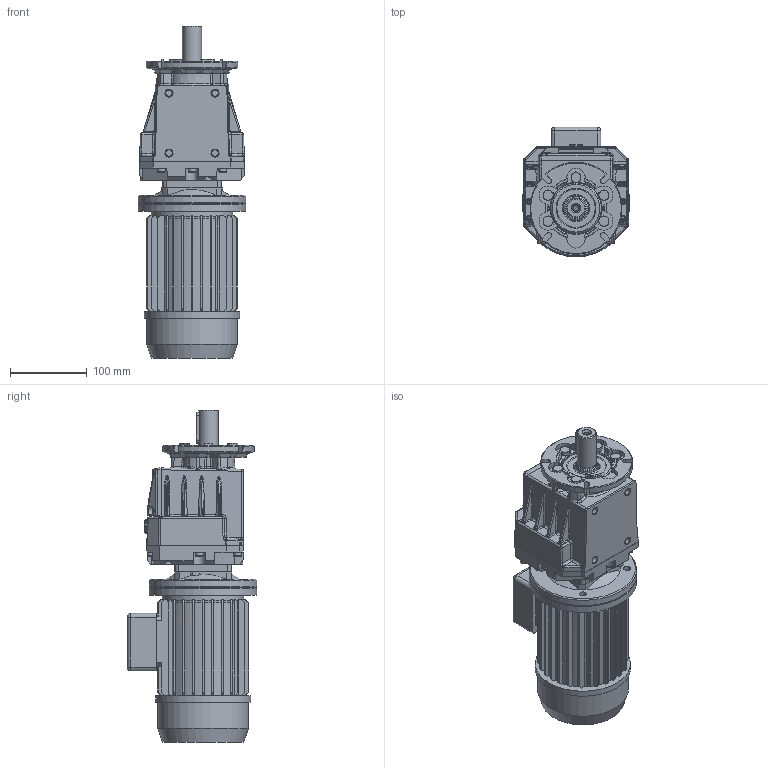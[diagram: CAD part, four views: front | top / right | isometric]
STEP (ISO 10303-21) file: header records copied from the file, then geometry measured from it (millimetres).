
FILE_DESCRIPTION( ( 'Unknown' ), '1' );
FILE_NAME( 'E:/services/configuratordownloads/customers/HYDROMEC/COASSIALI/download/301AC41EC413DED122242F237E3263E2/STEP/301AC41EC413DED122242F237E3263E2.3d.stp', 'Unknown', ( 'Unknown' ), ( 'Unknown' ), 'PSStep 10.1', 'Unknown', ' ' );
FILE_SCHEMA( ( 'AUTOMOTIVE_DESIGN { 1 0 10303 214 1 1 1 1 }' ) );
Length unit declared in the file: millimetre
Products named in the file (1): C418800
Bounding box: 140 x 169 x 432.5 mm (x, y, z)
Volume: 4232655.2 mm3; surface area: 349477.2 mm2
Topology: 1 solids, 20 shells, 1517 faces, 3838 edges, 2413 vertices
Faces by surface type: plane 800, cylinder 290, bspline 196, cone 166, torus 44, sphere 18, extrusion 3
Full cylindrical faces by diameter (mm): 6.5 x1, 6.647 x10, 7 x8, 8 x4, 8.376 x4, 8.4 x1, 9 x4, 9.9 x8, 10 x4, 11 x4, 11.6 x5, 13.5 x1, 18 x1, 19 x1, 22 x1, 24.6 x1, 25 x1, 30 x1, 35 x1, 35.5 x1, 47 x2, 66 x1, 95 x1, 105 x1, 105.986 x1, 118 x1, 124 x1, 140 x1
Entity records: 67840 total; most frequent: CARTESIAN_POINT 21647, ORIENTED_EDGE 7210, DIRECTION 6539, EDGE_CURVE 3605, VERTEX_POINT 2356, AXIS2_PLACEMENT_3D 2302, VECTOR 1935, LINE 1932
